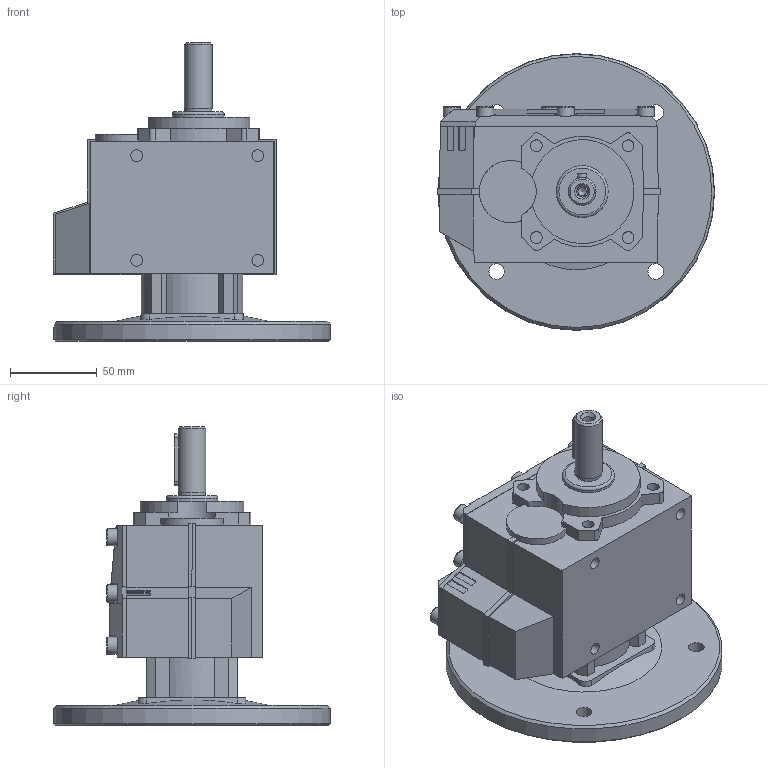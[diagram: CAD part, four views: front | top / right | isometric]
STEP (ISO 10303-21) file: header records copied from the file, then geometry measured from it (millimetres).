
FILE_DESCRIPTION( ( 'Unknown' ), '1' );
FILE_NAME( 'E:/services/configuratordownloads/customers/HYDROMEC/COASSIALI/download/77688AC22FB2C3497F1E24E83D9E93/STEP/77688AC22FB2C3497F1E24E83D9E93.3d.stp', 'Unknown', ( 'Unknown' ), ( 'Unknown' ), 'PSStep 10.1', 'Unknown', ' ' );
FILE_SCHEMA( ( 'AUTOMOTIVE_DESIGN { 1 0 10303 214 1 1 1 1 }' ) );
Length unit declared in the file: millimetre
Products named in the file (2): C308800
Bounding box: 160.22 x 160.02 x 172.7 mm (x, y, z)
Volume: 1024282.2 mm3; surface area: 121671.7 mm2
Topology: 2 solids, 15 shells, 400 faces, 1020 edges, 677 vertices
Faces by surface type: plane 291, cylinder 83, cone 16, torus 10
Full cylindrical faces by diameter (mm): 4.917 x5, 6 x8, 6.4 x1, 6.8 x8, 9 x4, 9.9 x8, 15 x1, 15.7 x1, 16 x1, 25 x2, 30 x1, 40 x2, 110 x1
Entity records: 14744 total; most frequent: CARTESIAN_POINT 2133, DIRECTION 1971, ORIENTED_EDGE 1810, EDGE_CURVE 905, AXIS2_PLACEMENT_3D 674, VERTEX_POINT 636, LINE 623, VECTOR 623
